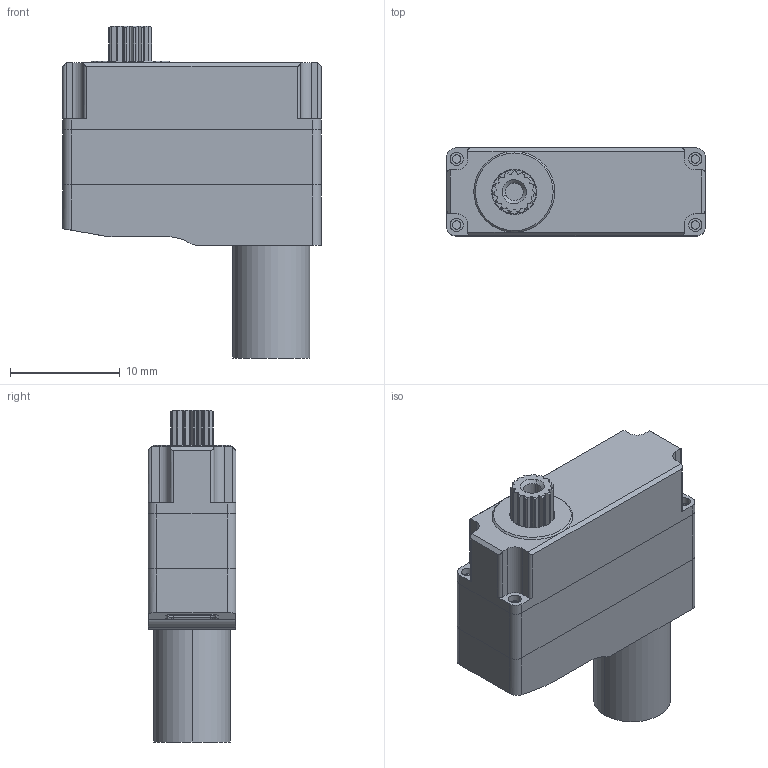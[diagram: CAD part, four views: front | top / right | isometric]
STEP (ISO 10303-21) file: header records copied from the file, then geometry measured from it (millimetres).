
FILE_DESCRIPTION (( 'STEP AP214' ), '1' );
FILE_NAME ('X08N Plus-3.2_DM_20231028.STEP', '2023-10-28T06:13:35', ( '' ), ( '' ), 'SwSTEP 2.0', 'SolidWorks 2016', '' );
FILE_SCHEMA (( 'AUTOMOTIVE_DESIGN' ));
Length unit declared in the file: millimetre
Products named in the file (1): X08N Plus-3.2_DM_20231028
Bounding box: 23.5 x 8 x 30.19 mm (x, y, z)
Surface area: 2500.9 mm2 (no closed solid volume)
Topology: 0 solids, 7 shells, 214 faces, 687 edges, 476 vertices
Faces by surface type: cylinder 107, plane 82, cone 19, bspline 6
Entity records: 10130 total; most frequent: CARTESIAN_POINT 1681, DIRECTION 1293, ORIENTED_EDGE 1224, EDGE_CURVE 687, VERTEX_POINT 476, AXIS2_PLACEMENT_3D 464, VECTOR 365, LINE 365
